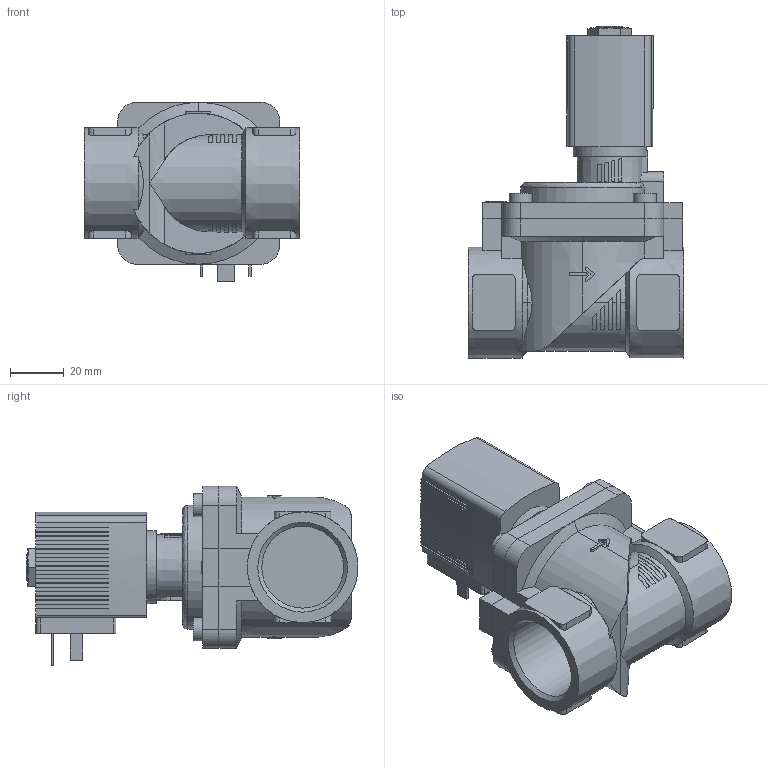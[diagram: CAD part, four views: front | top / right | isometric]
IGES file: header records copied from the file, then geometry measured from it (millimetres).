
Start section: Data from Parasolid IGES Translator 26.0.171, Copyright(c) 2006 Siemens PLM Software. All Rights Reserved.
Global section: file name: 6281-241817-2_2-Way_Solenoid_Valve__Servo-assisted__General_Purpose.igs; native system: By Siemens PLM Incorporated; preprocessor: XPlus GENERIC/IGES 26.0.171; author: Noname; organization: Noname; date: 20240520.123641; units: millimetre
Bounding box: 80 x 123 x 66.5 mm (x, y, z)
Surface area: 47006.5 mm2 (no closed solid volume)
Topology: 0 solids, 0 shells, 554 faces, 3050 edges, 3031 vertices
Faces by surface type: extrusion 432, revolution 122
